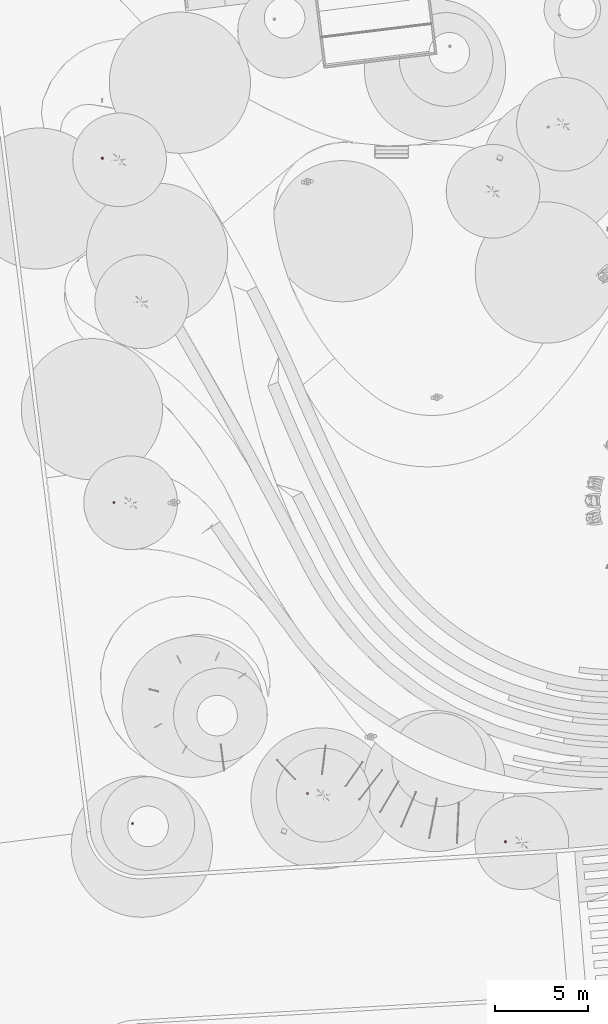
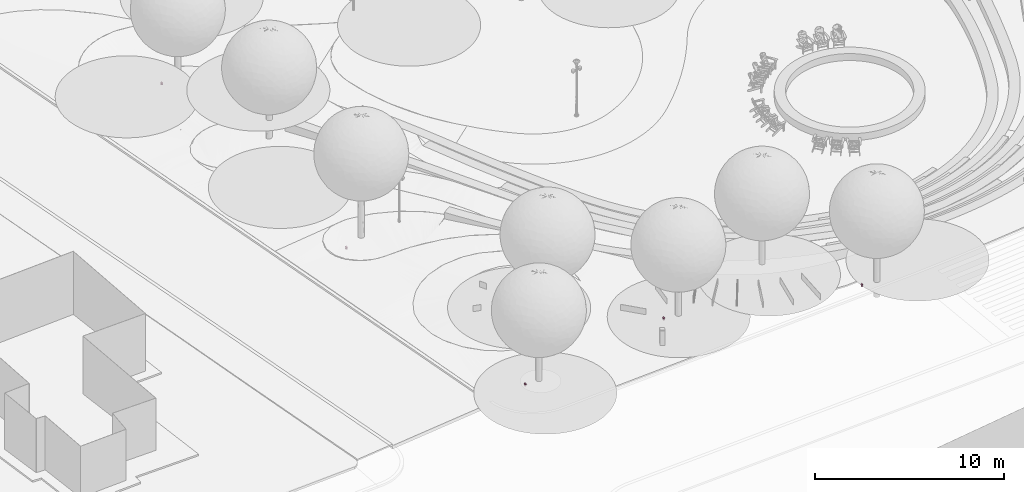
# One storey, part 60 of 75: 5 furnishings.
"""IFC2X3 building model written with IfcOpenShell, lengths in metres."""

from ifc_helpers import new_model, entity, si_unit, converted_unit, derived_unit, direction, frame, frame_2d, origin, place, context, subcontext, project, spatial, polyline, circle, outline, extrude, source, transform, mapped, material, material_list, type_object, type_shapes, element, save


model = new_model("IFC2X3")

# Units and contexts
model_context = context("Model", 3, precision=1e-05, world=origin(), true_north=direction((6.123031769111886e-17, 1.0)))
body_context = subcontext(model_context, "Body", "Model", "MODEL_VIEW")
ifc_project = project(units=[si_unit("LENGTHUNIT", "METRE"), si_unit("AREAUNIT", "SQUARE_METRE"), si_unit("VOLUMEUNIT", "CUBIC_METRE"), converted_unit("PLANEANGLEUNIT", "DEGREE", entity("IfcRatioMeasure", 0.017453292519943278), si_unit("PLANEANGLEUNIT", "RADIAN"), dimensions=[0, 0, 0, 0, 0, 0, 0]), si_unit("MASSUNIT", "GRAM", prefix="KILO"), derived_unit("MASSDENSITYUNIT", [(si_unit("MASSUNIT", "GRAM", prefix="KILO"), 1), (si_unit("LENGTHUNIT", "METRE"), -3)]), derived_unit("IONCONCENTRATIONUNIT", [(si_unit("MASSUNIT", "GRAM", prefix="KILO"), 1), (si_unit("LENGTHUNIT", "METRE"), -3)]), derived_unit("MOMENTOFINERTIAUNIT", [(si_unit("LENGTHUNIT", "METRE"), 4)]), si_unit("TIMEUNIT", "SECOND"), si_unit("FREQUENCYUNIT", "HERTZ"), si_unit("THERMODYNAMICTEMPERATUREUNIT", "DEGREE_CELSIUS"), derived_unit("THERMALTRANSMITTANCEUNIT", [(si_unit("MASSUNIT", "GRAM", prefix="KILO"), 1), (si_unit("THERMODYNAMICTEMPERATUREUNIT", "KELVIN"), -1), (si_unit("TIMEUNIT", "SECOND"), -3)]), derived_unit("THERMALCONDUCTANCEUNIT", [(si_unit("MASSUNIT", "GRAM", prefix="KILO"), 1), (si_unit("THERMODYNAMICTEMPERATUREUNIT", "KELVIN"), -1), (si_unit("TIMEUNIT", "SECOND"), -3), (si_unit("LENGTHUNIT", "METRE"), 1)]), derived_unit("VOLUMETRICFLOWRATEUNIT", [(si_unit("LENGTHUNIT", "METRE"), 3), (si_unit("TIMEUNIT", "SECOND"), -1)]), derived_unit("MASSFLOWRATEUNIT", [(si_unit("MASSUNIT", "GRAM", prefix="KILO"), 1), (si_unit("TIMEUNIT", "SECOND"), -1)]), derived_unit("ROTATIONALFREQUENCYUNIT", [(si_unit("TIMEUNIT", "SECOND"), -1)]), si_unit("ELECTRICCURRENTUNIT", "AMPERE"), si_unit("ELECTRICVOLTAGEUNIT", "VOLT"), si_unit("POWERUNIT", "WATT"), si_unit("FORCEUNIT", "NEWTON", prefix="KILO"), si_unit("ILLUMINANCEUNIT", "LUX"), si_unit("LUMINOUSFLUXUNIT", "LUMEN"), si_unit("LUMINOUSINTENSITYUNIT", "CANDELA"), derived_unit("USERDEFINED", [(si_unit("MASSUNIT", "GRAM", prefix="KILO"), -1), (si_unit("LENGTHUNIT", "METRE"), -2), (si_unit("TIMEUNIT", "SECOND"), 3), (si_unit("LUMINOUSFLUXUNIT", "LUMEN"), 1)]), derived_unit("USERDEFINED", [(si_unit("MASSUNIT", "GRAM", prefix="KILO"), 1), (si_unit("TIMEUNIT", "SECOND"), -3), (si_unit("LENGTHUNIT", "METRE"), 3), (si_unit("ELECTRICCURRENTUNIT", "AMPERE"), -2)]), derived_unit("SOUNDPOWERUNIT", [(si_unit("MASSUNIT", "GRAM", prefix="KILO"), 1), (si_unit("TIMEUNIT", "SECOND"), -3), (si_unit("LENGTHUNIT", "METRE"), 2)]), derived_unit("SOUNDPRESSUREUNIT", [(si_unit("MASSUNIT", "GRAM", prefix="KILO"), 1), (si_unit("LENGTHUNIT", "METRE"), -1), (si_unit("TIMEUNIT", "SECOND"), -2)]), derived_unit("LINEARVELOCITYUNIT", [(si_unit("LENGTHUNIT", "METRE"), 1), (si_unit("TIMEUNIT", "SECOND"), -1)]), si_unit("PRESSUREUNIT", "PASCAL"), derived_unit("USERDEFINED", [(si_unit("MASSUNIT", "GRAM", prefix="KILO"), 1), (si_unit("LENGTHUNIT", "METRE"), -2), (si_unit("TIMEUNIT", "SECOND"), -2)]), derived_unit("LINEARFORCEUNIT", [(si_unit("MASSUNIT", "GRAM", prefix="KILO"), 1), (si_unit("TIMEUNIT", "SECOND"), -2)]), derived_unit("PLANARFORCEUNIT", [(si_unit("MASSUNIT", "GRAM", prefix="KILO"), 1), (si_unit("LENGTHUNIT", "METRE"), -1), (si_unit("TIMEUNIT", "SECOND"), -2)]), derived_unit("SPECIFICHEATCAPACITYUNIT", [(si_unit("THERMODYNAMICTEMPERATUREUNIT", "KELVIN"), -1), (si_unit("LENGTHUNIT", "METRE"), 2), (si_unit("TIMEUNIT", "SECOND"), -2)]), derived_unit("HEATINGVALUEUNIT", [(si_unit("LENGTHUNIT", "METRE"), 2), (si_unit("TIMEUNIT", "SECOND"), -2)]), derived_unit("VAPORPERMEABILITYUNIT", [(si_unit("LENGTHUNIT", "METRE"), -1), (si_unit("TIMEUNIT", "SECOND"), 1)]), derived_unit("DYNAMICVISCOSITYUNIT", [(si_unit("MASSUNIT", "GRAM", prefix="KILO"), 1), (si_unit("TIMEUNIT", "SECOND"), -1), (si_unit("LENGTHUNIT", "METRE"), -1)]), derived_unit("THERMALEXPANSIONCOEFFICIENTUNIT", [(si_unit("THERMODYNAMICTEMPERATUREUNIT", "KELVIN"), -1)]), derived_unit("MODULUSOFELASTICITYUNIT", [(si_unit("MASSUNIT", "GRAM", prefix="KILO"), 1), (si_unit("LENGTHUNIT", "METRE"), -1), (si_unit("TIMEUNIT", "SECOND"), -2)]), derived_unit("ISOTHERMALMOISTURECAPACITYUNIT", [(si_unit("LENGTHUNIT", "METRE"), 3), (si_unit("MASSUNIT", "GRAM", prefix="KILO"), -1)]), derived_unit("MOISTUREDIFFUSIVITYUNIT", [(si_unit("TIMEUNIT", "SECOND"), -1), (si_unit("LENGTHUNIT", "METRE"), 2)])], contexts=[model_context])

# Site, building, storey
site_placement = place(None, origin())
site = spatial("IfcSite", under=ifc_project, at=site_placement, Name="Default", CompositionType="ELEMENT")
building_placement = place(site_placement, origin())
building = spatial("IfcBuilding", under=site, at=building_placement, Name="Projeto", CompositionType="ELEMENT")
storey_placement = place(building_placement, origin())
storey = spatial("IfcBuildingStorey", under=building, at=storey_placement, Name="Nível 1", CompositionType="ELEMENT", Elevation=0.0)

# Furnishings
ifc_material_1 = material(Name="Aço")
ifc_material_2 = material(Name="<Unnamed>")
ifc_material_list = material_list([ifc_material_1, ifc_material_2])
furniture_type = type_object("IfcFurnitureType", Name="Iluminação de chão:Iluminação de chão", material=ifc_material_list)
shared_shape = source(origin(), body_context, "Body", "SweptSolid", [
    extrude(outline(polyline([(-0.026756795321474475, -0.05273292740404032), (0.025445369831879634, -0.05273292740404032), (0.05904645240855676, 0.0054658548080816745), (-0.010235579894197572, 0.04546585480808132), (-0.02074265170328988, 0.027267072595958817), (-0.02675679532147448, 0.027267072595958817), (-0.026756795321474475, -0.05273292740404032)])), frame((0.014277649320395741, -0.05750000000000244, 0.026756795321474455), z_axis=(0.0, 1.0, 0.0), x_axis=(0.0, 0.0, 1.0)), (0.0, 0.0, 1.0), 0.11499999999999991),
    extrude(circle(Radius=0.059999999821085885, at=frame_2d((1.4775496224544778e-22, -9.693267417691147e-17), x_axis=(1.0, 0.0))), frame((0.0, 0.0, -0.10000000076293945)), (0.0, 0.0, 1.0), 0.10000000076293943),
])
type_shapes(furniture_type, [shared_shape])
for number, where in (
    (1, (-22.63182110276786, 18.045803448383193, -1.612779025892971)),
    (2, (-22.007246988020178, -0.4390456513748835, -1.2540996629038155)),
    (3, (-21.010906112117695, -17.68582477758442, 0.0)),
    (4, (-11.608331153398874, -16.06681668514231, 0.0)),
    (5, (-0.9805908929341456, -18.661953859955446, 0.0)),
):
    element("IfcFurnishingElement", number, at=place(storey_placement, frame(where)), inside=storey, type_object=furniture_type, material=ifc_material_list, Name="Iluminação de chão:Iluminação de chão", ObjectType="Iluminação de chão:Iluminação de chão", context=body_context, shape_type="MappedRepresentation", body=[
        mapped(shared_shape, transform((0.0, 0.0, 0.0), scale=1.0)),
    ])

save(model, "model.ifc")
